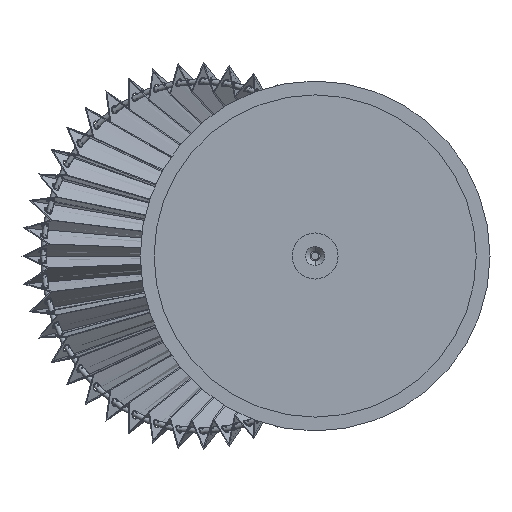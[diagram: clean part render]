
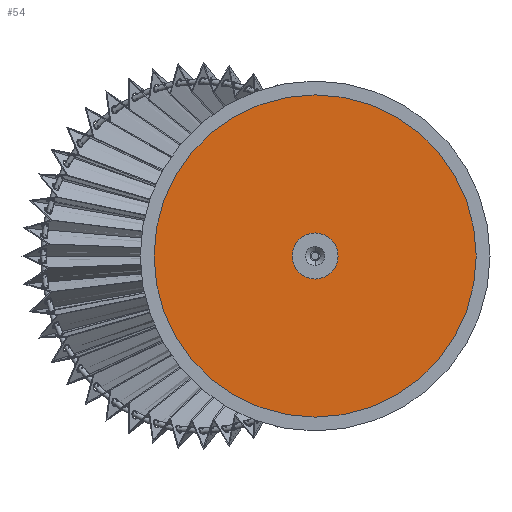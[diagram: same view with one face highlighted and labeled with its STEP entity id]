
A CAD part, front view. The second image highlights one B-rep face of the part: STEP entity #54.
In plain terms, the highlighted planar face has unit normal (0, -1, 0).
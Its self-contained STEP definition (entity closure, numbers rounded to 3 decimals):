
#54 = ADVANCED_FACE ( 'NONE', ( #24078, #228 ), #23590, .F. ) ;
#63 = CARTESIAN_POINT ( 'NONE',  ( 0., 0., -12.5 ) ) ;
#80 = CIRCLE ( 'NONE', #15970, 87.5 ) ;
#228 = FACE_BOUND ( 'NONE', #24829, .T. ) ;
#613 = EDGE_CURVE ( 'NONE', #8393, #13121, #22370, .T. ) ;
#614 = DIRECTION ( 'NONE',  ( 0., 0., 1. ) ) ;
#804 = CARTESIAN_POINT ( 'NONE',  ( 0., 0., 0. ) ) ;
#1417 = CARTESIAN_POINT ( 'NONE',  ( 0., 0., 0. ) ) ;
#1801 = AXIS2_PLACEMENT_3D ( 'NONE', #804, #22797, #614 ) ;
#5059 = EDGE_LOOP ( 'NONE', ( #23126, #23816 ) ) ;
#7846 = DIRECTION ( 'NONE',  ( 0., 1., 0. ) ) ;
#7913 = AXIS2_PLACEMENT_3D ( 'NONE', #10031, #7846, #14053 ) ;
#8289 = CIRCLE ( 'NONE', #26870, 12.5 ) ;
#8393 = VERTEX_POINT ( 'NONE', #14300 ) ;
#10031 = CARTESIAN_POINT ( 'NONE',  ( 0., 0., 0. ) ) ;
#12735 = CIRCLE ( 'NONE', #7913, 12.5 ) ;
#13121 = VERTEX_POINT ( 'NONE', #13521 ) ;
#13521 = CARTESIAN_POINT ( 'NONE',  ( 0., 0., 87.5 ) ) ;
#13634 = EDGE_CURVE ( 'NONE', #26552, #17741, #8289, .T. ) ;
#13722 = EDGE_CURVE ( 'NONE', #17741, #26552, #12735, .T. ) ;
#13861 = CARTESIAN_POINT ( 'NONE',  ( 0., 0., 0. ) ) ;
#14053 = DIRECTION ( 'NONE',  ( 0., 0., 1. ) ) ;
#14189 = AXIS2_PLACEMENT_3D ( 'NONE', #1417, #23309, #27571 ) ;
#14300 = CARTESIAN_POINT ( 'NONE',  ( 0., 0., -87.5 ) ) ;
#14859 = CARTESIAN_POINT ( 'NONE',  ( 0., 0., 12.5 ) ) ;
#15970 = AXIS2_PLACEMENT_3D ( 'NONE', #21085, #19181, #23531 ) ;
#16054 = DIRECTION ( 'NONE',  ( 0., 0., 1. ) ) ;
#16111 = EDGE_CURVE ( 'NONE', #13121, #8393, #80, .T. ) ;
#16741 = ORIENTED_EDGE ( 'NONE', *, *, #13722, .T. ) ;
#17741 = VERTEX_POINT ( 'NONE', #63 ) ;
#19181 = DIRECTION ( 'NONE',  ( 0., 1., 0. ) ) ;
#19760 = ORIENTED_EDGE ( 'NONE', *, *, #13634, .T. ) ;
#21085 = CARTESIAN_POINT ( 'NONE',  ( 0., 0., 0. ) ) ;
#22370 = CIRCLE ( 'NONE', #1801, 87.5 ) ;
#22717 = DIRECTION ( 'NONE',  ( 0., 1., 0. ) ) ;
#22797 = DIRECTION ( 'NONE',  ( 0., 1., 0. ) ) ;
#23126 = ORIENTED_EDGE ( 'NONE', *, *, #613, .F. ) ;
#23309 = DIRECTION ( 'NONE',  ( 0., 1., 0. ) ) ;
#23531 = DIRECTION ( 'NONE',  ( 0., 0., 1. ) ) ;
#23590 = PLANE ( 'NONE',  #14189 ) ;
#23816 = ORIENTED_EDGE ( 'NONE', *, *, #16111, .F. ) ;
#24078 = FACE_OUTER_BOUND ( 'NONE', #5059, .T. ) ;
#24829 = EDGE_LOOP ( 'NONE', ( #16741, #19760 ) ) ;
#26552 = VERTEX_POINT ( 'NONE', #14859 ) ;
#26870 = AXIS2_PLACEMENT_3D ( 'NONE', #13861, #22717, #16054 ) ;
#27571 = DIRECTION ( 'NONE',  ( 0., 0., 1. ) ) ;
